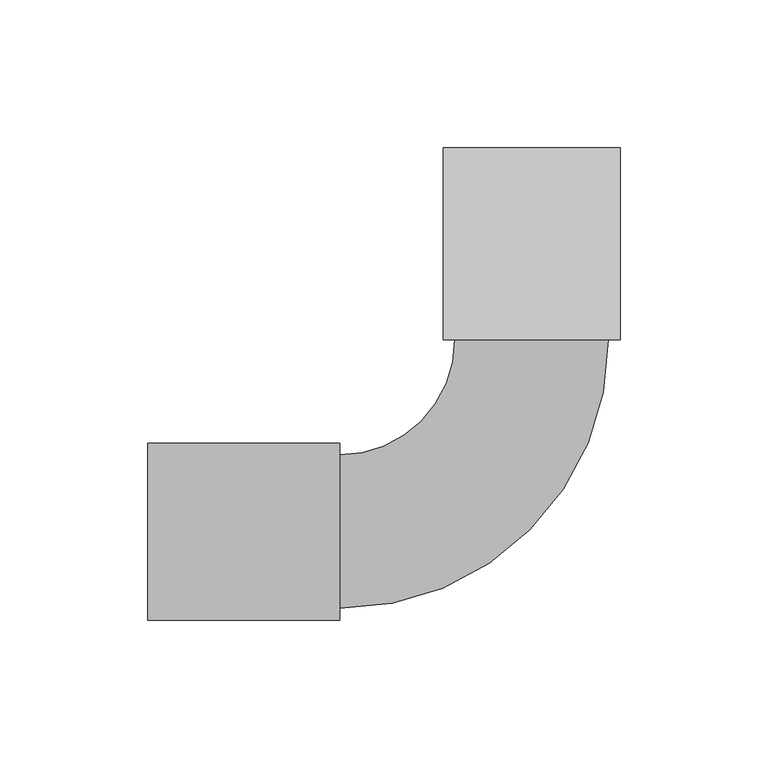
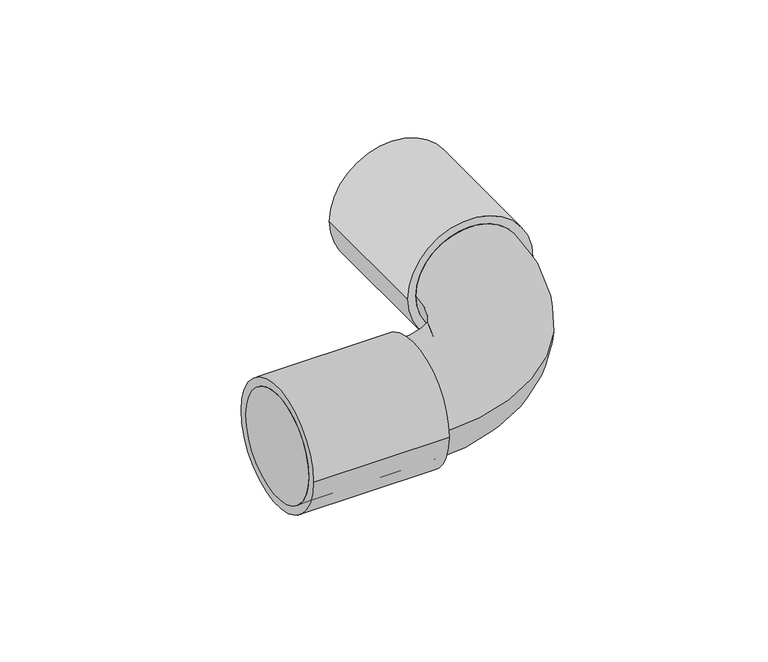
"""IFC4 building model written with IfcOpenShell, lengths in millimetres: cable carrier fitting geometry, Поворот на 90 труба-труба IP65 CS : Поворот на 90 труба-труба IP65 CS."""

from ifc_helpers import new_model, si_unit, point, frame, origin, origin_2d, place, context, project, spatial, circle_curve, ellipse_curve, trimmed, segment, composite_curve, outline, extrude, source, transform, mapped, element, save
from ifc_brep_helpers import plane_surface, cylinder_surface, revolved_surface, advanced_brep


def cable_carrier_fitting_f1df9ac4(model_context):
    return source(origin(), model_context, "Body", "SolidModel", [
        advanced_brep(
        [(-130.0, -26.0, 0.0), (-130.0, 26.0, 0.0), (-65.0, -26.0, 0.0), (-65.0, 26.0, 0.0), (-26.0, 65.0, 0.0), (26.0, 65.0, 0.0), (26.0, 130.0, 0.0), (-26.0, 130.0, 0.0)],
        [
            (0, 1, circle_curve(frame((-130.0, 0.0, 0.0), z_axis=(-1.0, 0.0, 0.0), x_axis=(0.0, 1.0, 0.0)), 26.0)),
            (1, 0, circle_curve(frame((-130.0, 0.0, 0.0), z_axis=(-1.0, 0.0, 0.0), x_axis=(0.0, 1.0, 0.0)), 26.0)),
            (0, 2),
            (2, 3, circle_curve(frame((-65.0, 0.0, 0.0), z_axis=(-1.0, 0.0, 0.0), x_axis=(0.0, 1.0, 0.0)), 26.0)),
            (3, 1),
            (3, 2, circle_curve(frame((-65.0, 0.0, 0.0), z_axis=(-1.0, 0.0, 0.0), x_axis=(0.0, 1.0, 0.0)), 26.0)),
            (4, 3, circle_curve(frame((-65.0, 65.0, 0.0), z_axis=(0.0, 0.0, -1.0), x_axis=(0.0, -1.0, 0.0)), 39.0)),
            (2, 5, circle_curve(frame((-65.0, 65.0, 0.0), z_axis=(0.0, 0.0, 1.0), x_axis=(0.0, -1.0, 0.0)), 91.0)),
            (5, 4, circle_curve(frame((0.0, 65.0, 0.0), z_axis=(0.0, -1.0, 0.0), x_axis=(-1.0, 0.0, 0.0)), 26.0)),
            (4, 5, circle_curve(frame((0.0, 65.0, 0.0), z_axis=(0.0, -1.0, 0.0), x_axis=(-1.0, 0.0, 0.0)), 26.0)),
            (6, 7, circle_curve(frame((0.0, 130.0, 0.0), z_axis=(0.0, 1.0, 0.0), x_axis=(-1.0, 0.0, 0.0)), 26.0)),
            (7, 6, circle_curve(frame((0.0, 130.0, 0.0), z_axis=(0.0, 1.0, 0.0), x_axis=(-1.0, 0.0, 0.0)), 26.0)),
            (5, 6),
            (7, 4),
        ],
        [
            plane_surface(frame((-130.0, 0.0, 0.0), z_axis=(-1.0, 0.0, 0.0), x_axis=(0.0, 0.0, 1.0))),
            cylinder_surface(frame((-130.0, 0.0, 0.0), z_axis=(-1.0, 0.0, 0.0), x_axis=(0.0, 1.0, 0.0)), 26.0),
            revolved_surface(trimmed(ellipse_curve(frame((-65.0, 0.0, 0.0), z_axis=(-1.0, 0.0, 0.0), x_axis=(0.0, 1.0, 0.0)), 26.0, 26.0), [point((-65.0, -26.0, 0.0))], [point((-65.0, 26.0, 0.0))], True, "CARTESIAN"), (-65.0, 65.0, 0.0), (0.0, 0.0, 1.0)),
            revolved_surface(trimmed(ellipse_curve(frame((-65.0, 0.0, 0.0), z_axis=(-1.0, 0.0, 0.0), x_axis=(0.0, 1.0, 0.0)), 26.0, 26.0), [point((-65.0, 26.0, 0.0))], [point((-65.0, -26.0, 0.0))], True, "CARTESIAN"), (-65.0, 65.0, 0.0), (0.0, 0.0, 1.0)),
            plane_surface(frame((0.0, 130.0, 0.0), z_axis=(0.0, 1.0, 0.0), x_axis=(0.0, 0.0, 1.0))),
            cylinder_surface(frame((0.0, 65.0, 0.0), z_axis=(0.0, -1.0, 0.0), x_axis=(-1.0, 0.0, 0.0)), 26.0),
        ],
        [
            (0, [[1, 2]]),
            (1, [[-1, 3, 4, 5]]),
            (1, [[-2, -5, 6, -3]]),
            (2, [[7, -4, 8, 9]]),
            (3, [[-8, -6, -7, 10]]),
            (4, [[11, 12]]),
            (5, [[-9, 13, -12, 14]]),
            (5, [[-10, -14, -11, -13]]),
        ],
    ),
        extrude(outline(composite_curve([segment(trimmed(circle_curve(origin_2d(), 30.0), [point((-30.0, 0.0))], [point((30.0, 0.0))], False, "CARTESIAN"), True, "CONTINUOUS"), segment(trimmed(circle_curve(origin_2d(), 30.0), [point((30.0, 0.0))], [point((-30.0, 0.0))], False, "CARTESIAN"), True, "CONTINUOUS")], self_intersect=False)), frame((-130.0, 0.0, 0.0), z_axis=(1.0, 0.0, 0.0), x_axis=(0.0, 1.0, 0.0)), (0.0, 0.0, 1.0), 65.0),
        extrude(outline(composite_curve([segment(trimmed(circle_curve(origin_2d(), 30.0), [point((0.0, 30.0))], [point((0.0, -30.0))], False, "CARTESIAN"), True, "CONTINUOUS"), segment(trimmed(circle_curve(origin_2d(), 30.0), [point((0.0, -30.0))], [point((0.0, 30.0))], False, "CARTESIAN"), True, "CONTINUOUS")], self_intersect=False)), frame((0.0, 65.0, 0.0), z_axis=(0.0, 1.0, 0.0), x_axis=(0.0, 0.0, 1.0)), (0.0, 0.0, 1.0), 65.0),
    ])


if __name__ == "__main__":
    model = new_model("IFC4")
    model_context = context("Model", 3, world=origin())
    ifc_project = project(units=[si_unit("LENGTHUNIT", "METRE", prefix="MILLI")], contexts=[model_context])
    site = spatial("IfcSite", under=ifc_project)
    building = spatial("IfcBuilding", under=site)
    placement = place(None, origin())
    cable_carrier_fitting_shape = cable_carrier_fitting_f1df9ac4(model_context)
    element("IfcCableCarrierFitting", 1, ObjectType="Поворот на 90 труба-труба IP65 CS : Поворот на 90 труба-труба IP65 CS", at=placement, inside=building, context=model_context, shape_type="MappedRepresentation", body=[
        mapped(cable_carrier_fitting_shape, transform((0.0, 0.0, 0.0), x_axis=(1.0, 0.0, 0.0), y_axis=(0.0, 1.0, 0.0), z_axis=(0.0, 0.0, 1.0))),
    ])
    save(model, "model.ifc")
